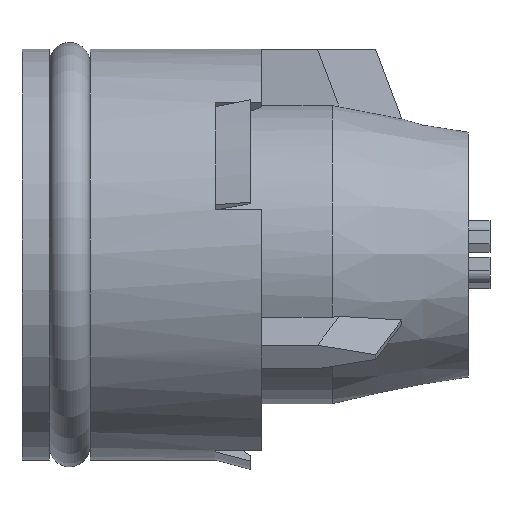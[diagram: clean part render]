
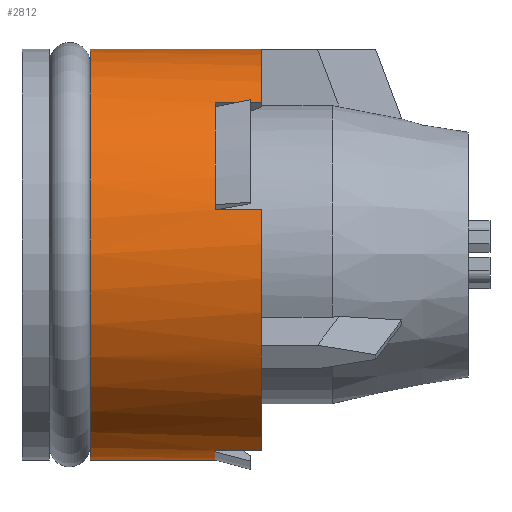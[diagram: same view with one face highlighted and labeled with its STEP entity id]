
A CAD part, top view. The second image highlights one B-rep face of the part: STEP entity #2812.
In plain terms, the highlighted cylindrical face has radius 7.55 mm (diameter 15.1 mm), a full revolution.
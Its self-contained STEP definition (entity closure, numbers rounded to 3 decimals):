
#426=CARTESIAN_POINT('',(-7.6,-4.2,6.274));
#427=VERTEX_POINT('',#426);
#552=CARTESIAN_POINT('',(-7.6,-3.334,6.774));
#553=VERTEX_POINT('',#552);
#667=CARTESIAN_POINT('',(-7.6,7.533,0.5));
#668=VERTEX_POINT('',#667);
#1428=CARTESIAN_POINT('',(-13.9,7.55,0.0));
#1429=VERTEX_POINT('',#1428);
#1430=CARTESIAN_POINT('',(-13.9,0.,0.0));
#1431=DIRECTION('',(1.0,0.0,0.0));
#1432=DIRECTION('',(0.0,1.0,0.0));
#1433=AXIS2_PLACEMENT_3D('',#1430,#1431,#1432);
#1434=CIRCLE('',#1433,7.55);
#1435=EDGE_CURVE('',#1429,#1429,#1434,.T.);
#1464=CARTESIAN_POINT('',(-7.6,-4.2,-6.274));
#1465=VERTEX_POINT('',#1464);
#1503=CARTESIAN_POINT('',(-7.6,-3.775,-6.538));
#1504=VERTEX_POINT('',#1503);
#1505=CARTESIAN_POINT('',(-7.6,0.,0.0));
#1506=DIRECTION('',(1.0,0.0,0.0));
#1507=DIRECTION('',(0.0,1.0,0.0));
#1508=AXIS2_PLACEMENT_3D('',#1505,#1506,#1507);
#1509=CIRCLE('',#1508,7.55);
#1510=EDGE_CURVE('',#1465,#1504,#1509,.T.);
#1629=CARTESIAN_POINT('',(-7.6,-3.334,-6.774));
#1630=VERTEX_POINT('',#1629);
#1667=CARTESIAN_POINT('',(-7.6,0.,0.0));
#1668=DIRECTION('',(1.0,0.0,0.0));
#1669=DIRECTION('',(0.0,1.0,0.0));
#1670=AXIS2_PLACEMENT_3D('',#1667,#1668,#1669);
#1671=CIRCLE('',#1670,7.55);
#1672=EDGE_CURVE('',#1504,#1630,#1671,.T.);
#1758=CARTESIAN_POINT('',(-9.3,5.431,5.245));
#1759=VERTEX_POINT('',#1758);
#1766=CARTESIAN_POINT('',(-9.3,1.827,7.326));
#1767=VERTEX_POINT('',#1766);
#1768=CARTESIAN_POINT('',(-9.3,0.,0.0));
#1769=DIRECTION('',(-1.0,0.0,0.0));
#1770=DIRECTION('',(0.0,1.0,0.0));
#1771=AXIS2_PLACEMENT_3D('',#1768,#1769,#1770);
#1772=CIRCLE('',#1771,7.55);
#1773=EDGE_CURVE('',#1767,#1759,#1772,.T.);
#1824=CARTESIAN_POINT('',(-7.6,-3.775,6.538));
#1825=VERTEX_POINT('',#1824);
#1826=CARTESIAN_POINT('',(-7.6,0.,0.0));
#1827=DIRECTION('',(1.0,0.0,0.0));
#1828=DIRECTION('',(0.0,1.0,0.0));
#1829=AXIS2_PLACEMENT_3D('',#1826,#1827,#1828);
#1830=CIRCLE('',#1829,7.55);
#1831=EDGE_CURVE('',#553,#1825,#1830,.T.);
#1868=CARTESIAN_POINT('',(-7.6,0.,0.0));
#1869=DIRECTION('',(1.0,0.0,0.0));
#1870=DIRECTION('',(0.0,1.0,0.0));
#1871=AXIS2_PLACEMENT_3D('',#1868,#1869,#1870);
#1872=CIRCLE('',#1871,7.55);
#1873=EDGE_CURVE('',#1825,#427,#1872,.T.);
#1959=CARTESIAN_POINT('',(-9.3,1.827,-7.326));
#1960=VERTEX_POINT('',#1959);
#1967=CARTESIAN_POINT('',(-9.3,5.431,-5.245));
#1968=VERTEX_POINT('',#1967);
#1969=CARTESIAN_POINT('',(-9.3,0.,0.0));
#1970=DIRECTION('',(-1.0,0.0,0.0));
#1971=DIRECTION('',(0.0,1.0,0.0));
#1972=AXIS2_PLACEMENT_3D('',#1969,#1970,#1971);
#1973=CIRCLE('',#1972,7.55);
#1974=EDGE_CURVE('',#1968,#1960,#1973,.T.);
#2035=CARTESIAN_POINT('',(-7.6,-7.201,-2.27));
#2036=VERTEX_POINT('',#2035);
#2043=CARTESIAN_POINT('',(-7.6,0.,0.0));
#2044=DIRECTION('',(1.0,0.0,0.0));
#2045=DIRECTION('',(0.0,1.0,0.0));
#2046=AXIS2_PLACEMENT_3D('',#2043,#2044,#2045);
#2047=CIRCLE('',#2046,7.55);
#2048=EDGE_CURVE('',#2036,#1465,#2047,.T.);
#2059=CARTESIAN_POINT('',(-7.6,1.634,-7.371));
#2060=VERTEX_POINT('',#2059);
#2061=CARTESIAN_POINT('',(-7.6,0.,0.0));
#2062=DIRECTION('',(1.0,0.0,0.0));
#2063=DIRECTION('',(0.0,1.0,0.0));
#2064=AXIS2_PLACEMENT_3D('',#2061,#2062,#2063);
#2065=CIRCLE('',#2064,7.55);
#2066=EDGE_CURVE('',#1630,#2060,#2065,.T.);
#2137=CARTESIAN_POINT('',(-7.6,1.634,7.371));
#2138=VERTEX_POINT('',#2137);
#2145=CARTESIAN_POINT('',(-7.6,0.,0.0));
#2146=DIRECTION('',(1.0,0.0,0.0));
#2147=DIRECTION('',(0.0,1.0,0.0));
#2148=AXIS2_PLACEMENT_3D('',#2145,#2146,#2147);
#2149=CIRCLE('',#2148,7.55);
#2150=EDGE_CURVE('',#2138,#553,#2149,.T.);
#2161=CARTESIAN_POINT('',(-7.6,-7.201,2.27));
#2162=VERTEX_POINT('',#2161);
#2163=CARTESIAN_POINT('',(-7.6,0.,0.0));
#2164=DIRECTION('',(1.0,0.0,0.0));
#2165=DIRECTION('',(0.0,1.0,0.0));
#2166=AXIS2_PLACEMENT_3D('',#2163,#2164,#2165);
#2167=CIRCLE('',#2166,7.55);
#2168=EDGE_CURVE('',#427,#2162,#2167,.T.);
#2186=CARTESIAN_POINT('',(-9.3,1.634,7.371));
#2187=VERTEX_POINT('',#2186);
#2188=CARTESIAN_POINT('',(-9.3,0.,0.0));
#2189=DIRECTION('',(-1.0,0.0,0.0));
#2190=DIRECTION('',(0.0,1.0,0.0));
#2191=AXIS2_PLACEMENT_3D('',#2188,#2189,#2190);
#2192=CIRCLE('',#2191,7.55);
#2193=EDGE_CURVE('',#2187,#1767,#2192,.T.);
#2202=CARTESIAN_POINT('',(-9.3,5.566,5.101));
#2203=VERTEX_POINT('',#2202);
#2210=CARTESIAN_POINT('',(-9.3,0.,0.0));
#2211=DIRECTION('',(-1.0,0.0,0.0));
#2212=DIRECTION('',(0.0,1.0,0.0));
#2213=AXIS2_PLACEMENT_3D('',#2210,#2211,#2212);
#2214=CIRCLE('',#2213,7.55);
#2215=EDGE_CURVE('',#1759,#2203,#2214,.T.);
#2229=CARTESIAN_POINT('',(-7.6,1.634,7.371));
#2230=DIRECTION('',(-1.0,0.0,0.0));
#2231=VECTOR('',#2230,1.7);
#2232=LINE('',#2229,#2231);
#2233=EDGE_CURVE('',#2138,#2187,#2232,.T.);
#2245=CARTESIAN_POINT('',(-7.6,5.566,5.101));
#2246=VERTEX_POINT('',#2245);
#2253=CARTESIAN_POINT('',(-9.3,5.566,5.101));
#2254=DIRECTION('',(1.0,0.0,0.0));
#2255=VECTOR('',#2254,1.7);
#2256=LINE('',#2253,#2255);
#2257=EDGE_CURVE('',#2203,#2246,#2256,.T.);
#2269=CARTESIAN_POINT('',(-9.3,5.566,-5.101));
#2270=VERTEX_POINT('',#2269);
#2271=CARTESIAN_POINT('',(-9.3,0.,0.0));
#2272=DIRECTION('',(-1.0,0.0,0.0));
#2273=DIRECTION('',(0.0,1.0,0.0));
#2274=AXIS2_PLACEMENT_3D('',#2271,#2272,#2273);
#2275=CIRCLE('',#2274,7.55);
#2276=EDGE_CURVE('',#2270,#1968,#2275,.T.);
#2295=CARTESIAN_POINT('',(-9.3,1.634,-7.371));
#2296=VERTEX_POINT('',#2295);
#2303=CARTESIAN_POINT('',(-9.3,0.,0.0));
#2304=DIRECTION('',(-1.0,0.0,0.0));
#2305=DIRECTION('',(0.0,1.0,0.0));
#2306=AXIS2_PLACEMENT_3D('',#2303,#2304,#2305);
#2307=CIRCLE('',#2306,7.55);
#2308=EDGE_CURVE('',#1960,#2296,#2307,.T.);
#2329=CARTESIAN_POINT('',(-7.6,5.566,-5.101));
#2330=VERTEX_POINT('',#2329);
#2331=CARTESIAN_POINT('',(-7.6,5.566,-5.101));
#2332=DIRECTION('',(-1.0,0.0,0.0));
#2333=VECTOR('',#2332,1.7);
#2334=LINE('',#2331,#2333);
#2335=EDGE_CURVE('',#2330,#2270,#2334,.T.);
#2358=CARTESIAN_POINT('',(-9.3,1.634,-7.371));
#2359=DIRECTION('',(1.0,0.0,0.0));
#2360=VECTOR('',#2359,1.7);
#2361=LINE('',#2358,#2360);
#2362=EDGE_CURVE('',#2296,#2060,#2361,.T.);
#2410=CARTESIAN_POINT('',(-7.6,7.533,-0.5));
#2411=VERTEX_POINT('',#2410);
#2412=CARTESIAN_POINT('',(-7.6,0.,0.0));
#2413=DIRECTION('',(1.0,0.0,0.0));
#2414=DIRECTION('',(0.0,1.0,0.0));
#2415=AXIS2_PLACEMENT_3D('',#2412,#2413,#2414);
#2416=CIRCLE('',#2415,7.55);
#2417=EDGE_CURVE('',#2330,#2411,#2416,.T.);
#2467=CARTESIAN_POINT('',(-7.6,7.55,0.0));
#2468=VERTEX_POINT('',#2467);
#2492=CARTESIAN_POINT('',(-7.6,0.,0.0));
#2493=DIRECTION('',(1.0,0.0,0.0));
#2494=DIRECTION('',(0.0,1.0,0.0));
#2495=AXIS2_PLACEMENT_3D('',#2492,#2493,#2494);
#2496=CIRCLE('',#2495,7.55);
#2497=EDGE_CURVE('',#2468,#668,#2496,.T.);
#2529=CARTESIAN_POINT('',(-7.6,0.,0.0));
#2530=DIRECTION('',(1.0,0.0,0.0));
#2531=DIRECTION('',(0.0,1.0,0.0));
#2532=AXIS2_PLACEMENT_3D('',#2529,#2530,#2531);
#2533=CIRCLE('',#2532,7.55);
#2534=EDGE_CURVE('',#2411,#2468,#2533,.T.);
#2549=CARTESIAN_POINT('',(-7.6,0.,0.0));
#2550=DIRECTION('',(1.0,0.0,0.0));
#2551=DIRECTION('',(0.0,1.0,0.0));
#2552=AXIS2_PLACEMENT_3D('',#2549,#2550,#2551);
#2553=CIRCLE('',#2552,7.55);
#2554=EDGE_CURVE('',#668,#2246,#2553,.T.);
#2638=CARTESIAN_POINT('',(-9.3,-7.258,2.081));
#2639=VERTEX_POINT('',#2638);
#2646=CARTESIAN_POINT('',(-9.3,-7.258,-2.081));
#2647=VERTEX_POINT('',#2646);
#2648=CARTESIAN_POINT('',(-9.3,0.,0.0));
#2649=DIRECTION('',(-1.0,0.0,0.0));
#2650=DIRECTION('',(0.0,1.0,0.0));
#2651=AXIS2_PLACEMENT_3D('',#2648,#2649,#2650);
#2652=CIRCLE('',#2651,7.55);
#2653=EDGE_CURVE('',#2647,#2639,#2652,.T.);
#2706=CARTESIAN_POINT('',(-9.3,-7.201,2.27));
#2707=VERTEX_POINT('',#2706);
#2708=CARTESIAN_POINT('',(-9.3,-7.201,2.27));
#2709=DIRECTION('',(1.0,0.0,0.0));
#2710=VECTOR('',#2709,1.7);
#2711=LINE('',#2708,#2710);
#2712=EDGE_CURVE('',#2707,#2162,#2711,.T.);
#2729=CARTESIAN_POINT('',(-9.3,-7.201,-2.27));
#2730=VERTEX_POINT('',#2729);
#2731=CARTESIAN_POINT('',(-9.3,0.,0.0));
#2732=DIRECTION('',(-1.0,0.0,0.0));
#2733=DIRECTION('',(0.0,1.0,0.0));
#2734=AXIS2_PLACEMENT_3D('',#2731,#2732,#2733);
#2735=CIRCLE('',#2734,7.55);
#2736=EDGE_CURVE('',#2730,#2647,#2735,.T.);
#2746=CARTESIAN_POINT('',(-9.3,0.,0.0));
#2747=DIRECTION('',(-1.0,0.0,0.0));
#2748=DIRECTION('',(0.0,1.0,0.0));
#2749=AXIS2_PLACEMENT_3D('',#2746,#2747,#2748);
#2750=CIRCLE('',#2749,7.55);
#2751=EDGE_CURVE('',#2639,#2707,#2750,.T.);
#2765=CARTESIAN_POINT('',(-7.6,-7.201,-2.27));
#2766=DIRECTION('',(-1.0,0.0,0.0));
#2767=VECTOR('',#2766,1.7);
#2768=LINE('',#2765,#2767);
#2769=EDGE_CURVE('',#2036,#2730,#2768,.T.);
#2775=CARTESIAN_POINT('',(-10.75,0.,0.0));
#2776=DIRECTION('',(1.0,0.,0.0));
#2777=DIRECTION('',(0.0,1.0,0.0));
#2778=AXIS2_PLACEMENT_3D('',#2775,#2776,#2777);
#2779=CYLINDRICAL_SURFACE('',#2778,7.55);
#2780=ORIENTED_EDGE('',*,*,#2257,.T.);
#2781=ORIENTED_EDGE('',*,*,#2554,.F.);
#2782=ORIENTED_EDGE('',*,*,#2497,.F.);
#2783=ORIENTED_EDGE('',*,*,#2534,.F.);
#2784=ORIENTED_EDGE('',*,*,#2417,.F.);
#2785=ORIENTED_EDGE('',*,*,#2335,.T.);
#2786=ORIENTED_EDGE('',*,*,#2276,.T.);
#2787=ORIENTED_EDGE('',*,*,#1974,.T.);
#2788=ORIENTED_EDGE('',*,*,#2308,.T.);
#2789=ORIENTED_EDGE('',*,*,#2362,.T.);
#2790=ORIENTED_EDGE('',*,*,#2066,.F.);
#2791=ORIENTED_EDGE('',*,*,#1672,.F.);
#2792=ORIENTED_EDGE('',*,*,#1510,.F.);
#2793=ORIENTED_EDGE('',*,*,#2048,.F.);
#2794=ORIENTED_EDGE('',*,*,#2769,.T.);
#2795=ORIENTED_EDGE('',*,*,#2736,.T.);
#2796=ORIENTED_EDGE('',*,*,#2653,.T.);
#2797=ORIENTED_EDGE('',*,*,#2751,.T.);
#2798=ORIENTED_EDGE('',*,*,#2712,.T.);
#2799=ORIENTED_EDGE('',*,*,#2168,.F.);
#2800=ORIENTED_EDGE('',*,*,#1873,.F.);
#2801=ORIENTED_EDGE('',*,*,#1831,.F.);
#2802=ORIENTED_EDGE('',*,*,#2150,.F.);
#2803=ORIENTED_EDGE('',*,*,#2233,.T.);
#2804=ORIENTED_EDGE('',*,*,#2193,.T.);
#2805=ORIENTED_EDGE('',*,*,#1773,.T.);
#2806=ORIENTED_EDGE('',*,*,#2215,.T.);
#2807=EDGE_LOOP('',(#2780,#2781,#2782,#2783,#2784,#2785,#2786,#2787,#2788,#2789,#2790,#2791,#2792,#2793,#2794,#2795,#2796,#2797,#2798,#2799,#2800,#2801,#2802,#2803,#2804,#2805,#2806));
#2808=FACE_OUTER_BOUND('',#2807,.T.);
#2809=ORIENTED_EDGE('',*,*,#1435,.T.);
#2810=EDGE_LOOP('',(#2809));
#2811=FACE_BOUND('',#2810,.T.);
#2812=ADVANCED_FACE('',(#2808,#2811),#2779,.T.);
